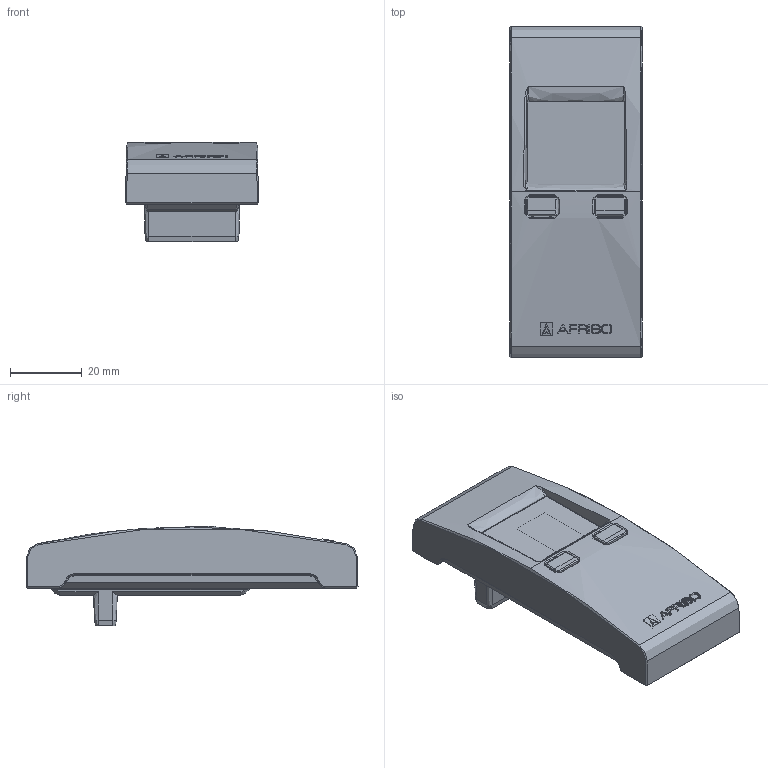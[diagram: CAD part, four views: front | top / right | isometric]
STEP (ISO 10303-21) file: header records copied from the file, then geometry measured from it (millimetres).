
FILE_DESCRIPTION (( 'STEP AP214' ), '1' );
FILE_NAME ('78113.STEP', '2022-08-22T08:25:18', ( '' ), ( '' ), 'SwSTEP 2.0', 'SolidWorks 2022', '' );
FILE_SCHEMA (( 'AUTOMOTIVE_DESIGN' ));
Length unit declared in the file: millimetre
Products named in the file (9): Geh_X_E4use Oberteil Uhr-Modul bedruckt_05 01 000751; Geh_X_E4use Oberteil Uhr-Modul UM_05 01 000741; W_X_FCplast-Linsenkopfschraube 2,5x10_709 000 0018_0_3; PRT0020; 78113; AFRISO-LOGO; ASM0002_ASM; W_X_FCplast-Linsenkopfschraube 2,5x10_709 000 0018_0_2; W_X_FCplast-Linsenkopfschraube 2,5x10_709 000 0018_0
Assembly tree (8 placements, depth 3):
  78113
    Geh_X_E4use Oberteil Uhr-Modul bedruckt_05 01 000751
      AFRISO-LOGO
      Geh_X_E4use Oberteil Uhr-Modul UM_05 01 000741
    W_X_FCplast-Linsenkopfschraube 2,5x10_709 000 0018_0
    W_X_FCplast-Linsenkopfschraube 2,5x10_709 000 0018_0_2
    W_X_FCplast-Linsenkopfschraube 2,5x10_709 000 0018_0_3
    ASM0002_ASM
      PRT0020
Bounding box: 36.99 x 92.39 x 27.68 mm (x, y, z)
Volume: 41589.1 mm3; surface area: 30504.6 mm2
Topology: 13 solids, 15 shells, 2099 faces, 5827 edges, 3750 vertices
Faces by surface type: plane 1199, cylinder 431, bspline 318, cone 137, torus 14
Entity records: 100487 total; most frequent: CARTESIAN_POINT 38230, ORIENTED_EDGE 11618, DIRECTION 7501, EDGE_CURVE 5809, VERTEX_POINT 3750, LINE 3237, VECTOR 3237, EDGE_LOOP 2161
